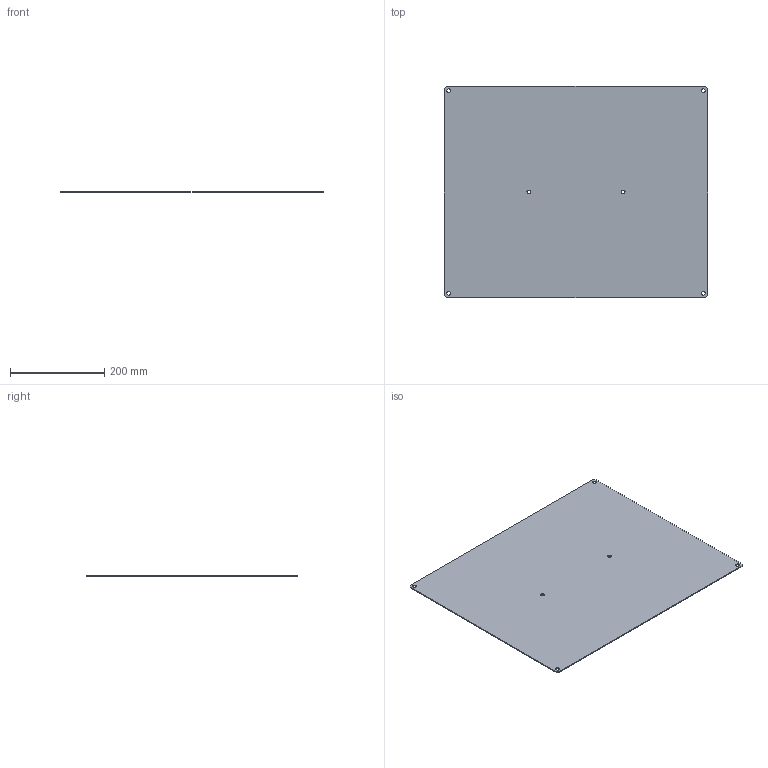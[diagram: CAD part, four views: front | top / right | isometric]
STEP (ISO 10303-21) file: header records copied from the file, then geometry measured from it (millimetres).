
FILE_DESCRIPTION (( 'STEP AP203' ), '1' );
FILE_NAME ('CN5065MP.STEP', '2021-07-01T11:55:41', ( 'vlan4e' ), ( '' ), 'SwSTEP 2.0', 'SolidWorks 2020', '' );
FILE_SCHEMA (( 'CONFIG_CONTROL_DESIGN' ));
Length unit declared in the file: millimetre
Products named in the file (1): CN5065MP
Bounding box: 558 x 448 x 2 mm (x, y, z)
Volume: 499264.8 mm3; surface area: 503567 mm2
Topology: 1 solids, 1 shells, 22 faces, 60 edges, 40 vertices
Faces by surface type: cylinder 12, plane 10
Entity records: 809 total; most frequent: DIRECTION 130, CARTESIAN_POINT 123, ORIENTED_EDGE 120, EDGE_CURVE 60, AXIS2_PLACEMENT_3D 47, VERTEX_POINT 40, LINE 36, VECTOR 36
